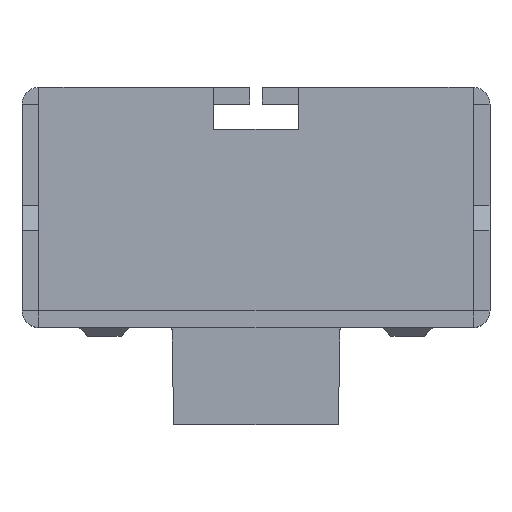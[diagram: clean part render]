
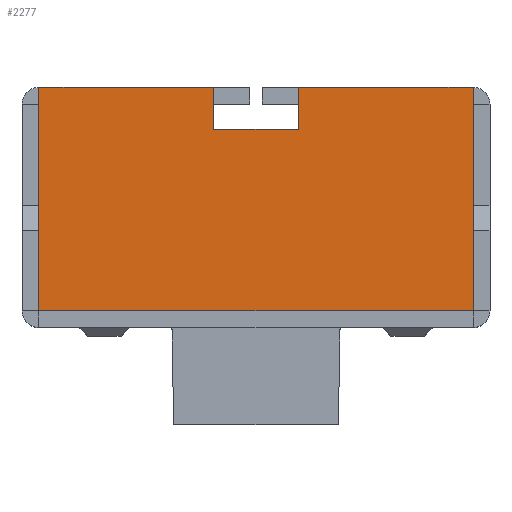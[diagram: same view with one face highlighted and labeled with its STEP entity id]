
A CAD part, top view. The second image highlights one B-rep face of the part: STEP entity #2277.
In plain terms, the highlighted planar face has unit normal (0, 0, 1).
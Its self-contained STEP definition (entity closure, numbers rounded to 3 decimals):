
#150=DIRECTION('',(1.,0.,0.));
#151=VECTOR('',#150,5.15);
#152=CARTESIAN_POINT('',(-2.575,0.,0.9));
#153=LINE('',#152,#151);
#507=DIRECTION('',(0.,1.,0.));
#508=VECTOR('',#507,2.65);
#509=CARTESIAN_POINT('',(2.575,0.,0.9));
#510=LINE('',#509,#508);
#556=DIRECTION('',(0.,-1.,0.));
#557=VECTOR('',#556,0.5);
#558=CARTESIAN_POINT('',(0.5,2.65,0.9));
#559=LINE('',#558,#557);
#563=DIRECTION('',(0.,1.,0.));
#564=VECTOR('',#563,2.65);
#565=CARTESIAN_POINT('',(-2.575,0.,0.9));
#566=LINE('',#565,#564);
#570=DIRECTION('',(0.,-1.,0.));
#571=VECTOR('',#570,0.5);
#572=CARTESIAN_POINT('',(-0.5,2.65,0.9));
#573=LINE('',#572,#571);
#577=DIRECTION('',(-1.,0.,0.));
#578=VECTOR('',#577,1.);
#579=CARTESIAN_POINT('',(0.5,2.15,0.9));
#580=LINE('',#579,#578);
#605=DIRECTION('',(1.,0.,0.));
#606=VECTOR('',#605,2.075);
#607=CARTESIAN_POINT('',(0.5,2.65,0.9));
#608=LINE('',#607,#606);
#647=DIRECTION('',(1.,0.,0.));
#648=VECTOR('',#647,2.075);
#649=CARTESIAN_POINT('',(-2.575,2.65,0.9));
#650=LINE('',#649,#648);
#1519=CARTESIAN_POINT('',(-2.575,0.,0.9));
#1520=CARTESIAN_POINT('',(2.575,0.,0.9));
#1521=VERTEX_POINT('',#1519);
#1522=VERTEX_POINT('',#1520);
#1523=CARTESIAN_POINT('',(-2.575,2.65,0.9));
#1524=VERTEX_POINT('',#1523);
#1525=CARTESIAN_POINT('',(2.575,2.65,0.9));
#1526=VERTEX_POINT('',#1525);
#1767=CARTESIAN_POINT('',(0.5,2.65,0.9));
#1769=VERTEX_POINT('',#1767);
#1775=CARTESIAN_POINT('',(-0.5,2.65,0.9));
#1777=VERTEX_POINT('',#1775);
#1783=CARTESIAN_POINT('',(0.5,2.15,0.9));
#1784=VERTEX_POINT('',#1783);
#1785=CARTESIAN_POINT('',(-0.5,2.15,0.9));
#1786=VERTEX_POINT('',#1785);
#2256=CARTESIAN_POINT('',(-2.575,0.,0.9));
#2257=DIRECTION('',(0.,0.,1.));
#2258=DIRECTION('',(1.,0.,0.));
#2259=AXIS2_PLACEMENT_3D('',#2256,#2257,#2258);
#2260=PLANE('',#2259);
#2262=ORIENTED_EDGE('',*,*,#2261,.F.);
#2264=ORIENTED_EDGE('',*,*,#2263,.T.);
#2265=ORIENTED_EDGE('',*,*,#2235,.F.);
#2266=ORIENTED_EDGE('',*,*,#1816,.F.);
#2268=ORIENTED_EDGE('',*,*,#2267,.T.);
#2270=ORIENTED_EDGE('',*,*,#2269,.T.);
#2272=ORIENTED_EDGE('',*,*,#2271,.T.);
#2274=ORIENTED_EDGE('',*,*,#2273,.F.);
#2275=EDGE_LOOP('',(#2262,#2264,#2265,#2266,#2268,#2270,#2272,#2274));
#2276=FACE_OUTER_BOUND('',#2275,.F.);
#1816=EDGE_CURVE('',#1521,#1522,#153,.T.);
#2235=EDGE_CURVE('',#1522,#1526,#510,.T.);
#2261=EDGE_CURVE('',#1769,#1784,#559,.T.);
#2263=EDGE_CURVE('',#1769,#1526,#608,.T.);
#2267=EDGE_CURVE('',#1521,#1524,#566,.T.);
#2269=EDGE_CURVE('',#1524,#1777,#650,.T.);
#2271=EDGE_CURVE('',#1777,#1786,#573,.T.);
#2273=EDGE_CURVE('',#1784,#1786,#580,.T.);
#2277=ADVANCED_FACE('',(#2276),#2260,.T.);
